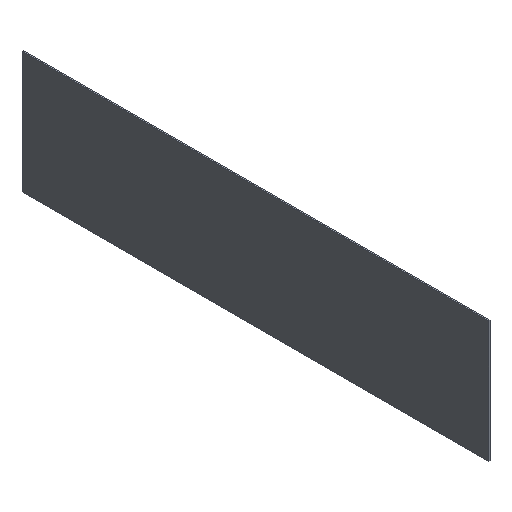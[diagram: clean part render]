
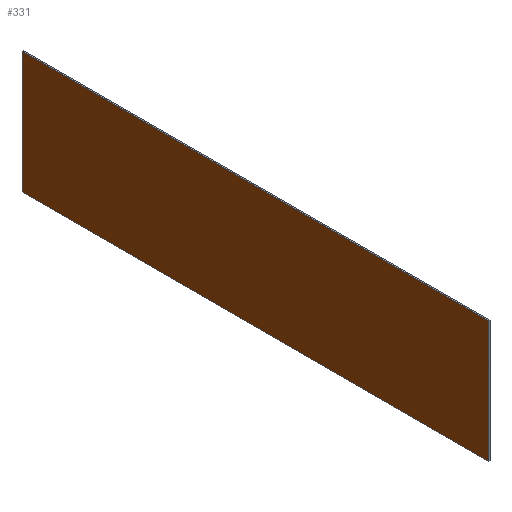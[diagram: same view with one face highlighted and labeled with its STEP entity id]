
A CAD part, isometric view. The second image highlights one B-rep face of the part: STEP entity #331.
In plain terms, the highlighted planar face has unit normal (-1, 0, 0).
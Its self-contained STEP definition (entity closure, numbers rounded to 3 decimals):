
#22 = VERTEX_POINT('',#23);
#23 = CARTESIAN_POINT('',(1733.,-1725.,2400.));
#32 = PLANE('',#33);
#33 = AXIS2_PLACEMENT_3D('',#34,#35,#36);
#34 = CARTESIAN_POINT('',(1733.,-1725.,2400.));
#35 = DIRECTION('',(0.,0.,1.));
#36 = DIRECTION('',(0.,1.,0.));
#44 = PLANE('',#45);
#45 = AXIS2_PLACEMENT_3D('',#46,#47,#48);
#46 = CARTESIAN_POINT('',(1733.,-1725.,3300.));
#47 = DIRECTION('',(-0.,1.,0.));
#48 = DIRECTION('',(0.,0.,-1.));
#85 = VERTEX_POINT('',#86);
#86 = CARTESIAN_POINT('',(1733.,1725.,2400.));
#100 = PLANE('',#101);
#101 = AXIS2_PLACEMENT_3D('',#102,#103,#104);
#102 = CARTESIAN_POINT('',(1733.,1725.,2400.));
#103 = DIRECTION('',(0.,-1.,0.));
#104 = DIRECTION('',(0.,0.,1.));
#112 = EDGE_CURVE('',#22,#85,#113,.T.);
#113 = SURFACE_CURVE('',#114,(#118,#125),.PCURVE_S1.);
#114 = LINE('',#115,#116);
#115 = CARTESIAN_POINT('',(1733.,-1725.,2400.));
#116 = VECTOR('',#117,1.);
#117 = DIRECTION('',(0.,1.,0.));
#118 = PCURVE('',#32,#119);
#119 = DEFINITIONAL_REPRESENTATION('',(#120),#124);
#120 = LINE('',#121,#122);
#121 = CARTESIAN_POINT('',(0.,0.));
#122 = VECTOR('',#123,1.);
#123 = DIRECTION('',(1.,0.));
#124 = ( GEOMETRIC_REPRESENTATION_CONTEXT(2) 
PARAMETRIC_REPRESENTATION_CONTEXT() REPRESENTATION_CONTEXT('2D SPACE',''
  ) );
#125 = PCURVE('',#126,#131);
#126 = PLANE('',#127);
#127 = AXIS2_PLACEMENT_3D('',#128,#129,#130);
#128 = CARTESIAN_POINT('',(1733.,0.,2850.));
#129 = DIRECTION('',(1.,0.,0.));
#130 = DIRECTION('',(-0.,0.,1.));
#131 = DEFINITIONAL_REPRESENTATION('',(#132),#136);
#132 = LINE('',#133,#134);
#133 = CARTESIAN_POINT('',(-450.,1725.));
#134 = VECTOR('',#135,1.);
#135 = DIRECTION('',(0.,-1.));
#136 = ( GEOMETRIC_REPRESENTATION_CONTEXT(2) 
PARAMETRIC_REPRESENTATION_CONTEXT() REPRESENTATION_CONTEXT('2D SPACE',''
  ) );
#166 = VERTEX_POINT('',#167);
#167 = CARTESIAN_POINT('',(1733.,1725.,3300.));
#181 = PLANE('',#182);
#182 = AXIS2_PLACEMENT_3D('',#183,#184,#185);
#183 = CARTESIAN_POINT('',(1733.,1725.,3300.));
#184 = DIRECTION('',(0.,0.,-1.));
#185 = DIRECTION('',(0.,-1.,0.));
#193 = EDGE_CURVE('',#85,#166,#194,.T.);
#194 = SURFACE_CURVE('',#195,(#199,#206),.PCURVE_S1.);
#195 = LINE('',#196,#197);
#196 = CARTESIAN_POINT('',(1733.,1725.,2400.));
#197 = VECTOR('',#198,1.);
#198 = DIRECTION('',(0.,0.,1.));
#199 = PCURVE('',#100,#200);
#200 = DEFINITIONAL_REPRESENTATION('',(#201),#205);
#201 = LINE('',#202,#203);
#202 = CARTESIAN_POINT('',(0.,0.));
#203 = VECTOR('',#204,1.);
#204 = DIRECTION('',(1.,0.));
#205 = ( GEOMETRIC_REPRESENTATION_CONTEXT(2) 
PARAMETRIC_REPRESENTATION_CONTEXT() REPRESENTATION_CONTEXT('2D SPACE',''
  ) );
#206 = PCURVE('',#126,#207);
#207 = DEFINITIONAL_REPRESENTATION('',(#208),#212);
#208 = LINE('',#209,#210);
#209 = CARTESIAN_POINT('',(-450.,-1725.));
#210 = VECTOR('',#211,1.);
#211 = DIRECTION('',(1.,0.));
#212 = ( GEOMETRIC_REPRESENTATION_CONTEXT(2) 
PARAMETRIC_REPRESENTATION_CONTEXT() REPRESENTATION_CONTEXT('2D SPACE',''
  ) );
#242 = VERTEX_POINT('',#243);
#243 = CARTESIAN_POINT('',(1733.,-1725.,3300.));
#264 = EDGE_CURVE('',#166,#242,#265,.T.);
#265 = SURFACE_CURVE('',#266,(#270,#277),.PCURVE_S1.);
#266 = LINE('',#267,#268);
#267 = CARTESIAN_POINT('',(1733.,1725.,3300.));
#268 = VECTOR('',#269,1.);
#269 = DIRECTION('',(0.,-1.,0.));
#270 = PCURVE('',#181,#271);
#271 = DEFINITIONAL_REPRESENTATION('',(#272),#276);
#272 = LINE('',#273,#274);
#273 = CARTESIAN_POINT('',(0.,-0.));
#274 = VECTOR('',#275,1.);
#275 = DIRECTION('',(1.,0.));
#276 = ( GEOMETRIC_REPRESENTATION_CONTEXT(2) 
PARAMETRIC_REPRESENTATION_CONTEXT() REPRESENTATION_CONTEXT('2D SPACE',''
  ) );
#277 = PCURVE('',#126,#278);
#278 = DEFINITIONAL_REPRESENTATION('',(#279),#283);
#279 = LINE('',#280,#281);
#280 = CARTESIAN_POINT('',(450.,-1725.));
#281 = VECTOR('',#282,1.);
#282 = DIRECTION('',(0.,1.));
#283 = ( GEOMETRIC_REPRESENTATION_CONTEXT(2) 
PARAMETRIC_REPRESENTATION_CONTEXT() REPRESENTATION_CONTEXT('2D SPACE',''
  ) );
#311 = EDGE_CURVE('',#242,#22,#312,.T.);
#312 = SURFACE_CURVE('',#313,(#317,#324),.PCURVE_S1.);
#313 = LINE('',#314,#315);
#314 = CARTESIAN_POINT('',(1733.,-1725.,3300.));
#315 = VECTOR('',#316,1.);
#316 = DIRECTION('',(0.,0.,-1.));
#317 = PCURVE('',#44,#318);
#318 = DEFINITIONAL_REPRESENTATION('',(#319),#323);
#319 = LINE('',#320,#321);
#320 = CARTESIAN_POINT('',(0.,0.));
#321 = VECTOR('',#322,1.);
#322 = DIRECTION('',(1.,0.));
#323 = ( GEOMETRIC_REPRESENTATION_CONTEXT(2) 
PARAMETRIC_REPRESENTATION_CONTEXT() REPRESENTATION_CONTEXT('2D SPACE',''
  ) );
#324 = PCURVE('',#126,#325);
#325 = DEFINITIONAL_REPRESENTATION('',(#326),#330);
#326 = LINE('',#327,#328);
#327 = CARTESIAN_POINT('',(450.,1725.));
#328 = VECTOR('',#329,1.);
#329 = DIRECTION('',(-1.,0.));
#330 = ( GEOMETRIC_REPRESENTATION_CONTEXT(2) 
PARAMETRIC_REPRESENTATION_CONTEXT() REPRESENTATION_CONTEXT('2D SPACE',''
  ) );
#331 = ADVANCED_FACE('',(#332),#126,.F.);
#332 = FACE_BOUND('',#333,.F.);
#333 = EDGE_LOOP('',(#334,#335,#336,#337));
#334 = ORIENTED_EDGE('',*,*,#112,.T.);
#335 = ORIENTED_EDGE('',*,*,#193,.T.);
#336 = ORIENTED_EDGE('',*,*,#264,.T.);
#337 = ORIENTED_EDGE('',*,*,#311,.T.);
